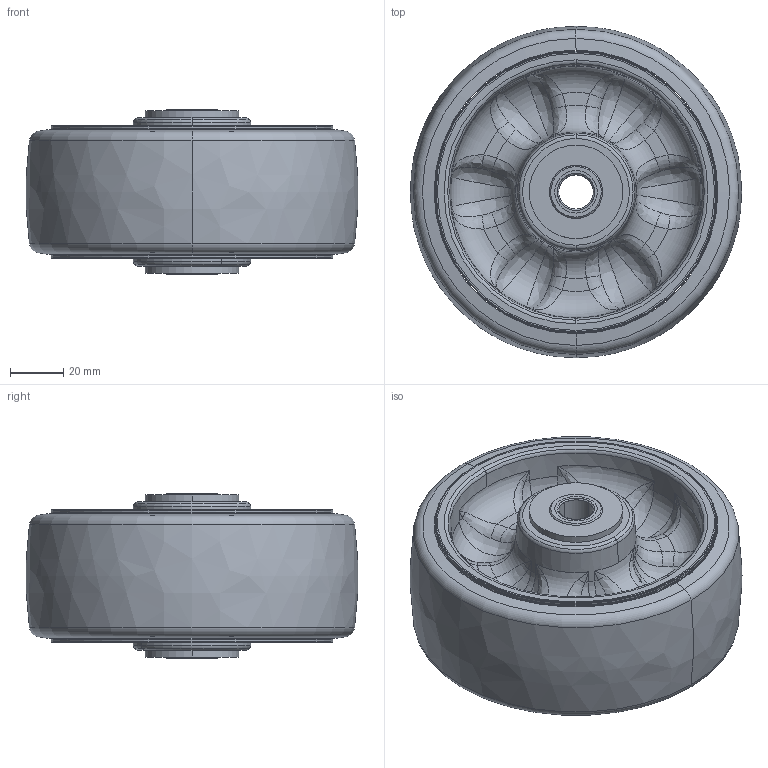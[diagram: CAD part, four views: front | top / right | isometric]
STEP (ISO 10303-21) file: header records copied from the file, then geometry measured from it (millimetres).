
FILE_DESCRIPTION((''),'2;1');
FILE_NAME('PRT0009','2025-10-13T14:10:56',('Administrator'),(''),'CREO PARAMETRIC BY PTC INC, 2022124','CREO PARAMETRIC BY PTC INC, 2022124','');
FILE_SCHEMA(('AUTOMOTIVE_DESIGN { 1 0 10303 214 1 1 1 1 }'));
Length unit declared in the file: millimetre
Products named in the file (1): PRT0009
Bounding box: 124.72 x 124.72 x 62 mm (x, y, z)
Surface area: 60481.2 mm2 (no closed solid volume)
Topology: 0 solids, 11 shells, 309 faces, 765 edges, 411 vertices
Faces by surface type: bspline 170, torus 72, cylinder 28, plane 23, cone 16
Entity records: 28434 total; most frequent: CARTESIAN_POINT 20285, ORIENTED_EDGE 1365, DIRECTION 915, EDGE_CURVE 717, AXIS2_PLACEMENT_3D 430, VERTEX_POINT 411, B_SPLINE_CURVE_WITH_KNOTS 384, EDGE_LOOP 320
